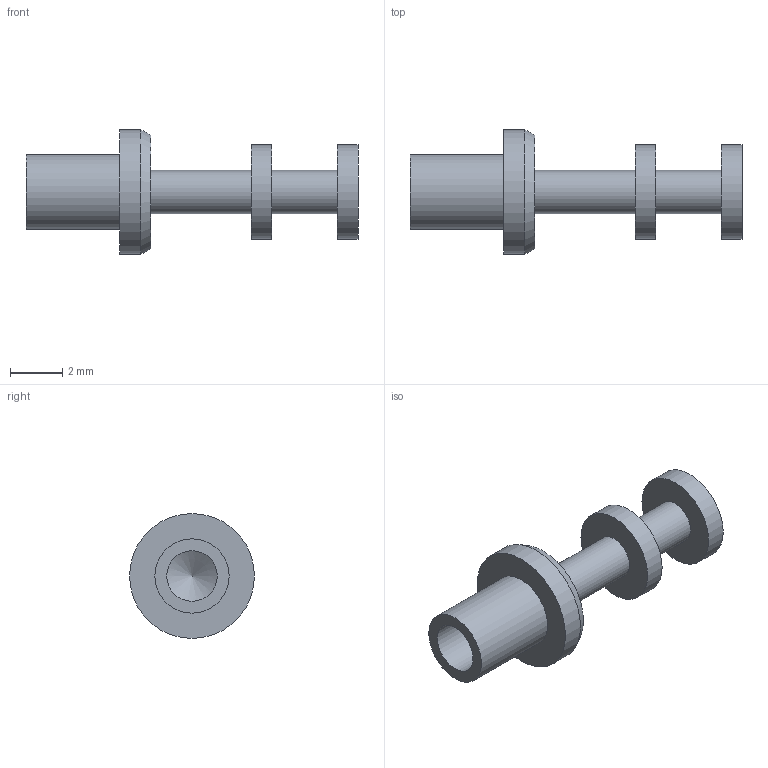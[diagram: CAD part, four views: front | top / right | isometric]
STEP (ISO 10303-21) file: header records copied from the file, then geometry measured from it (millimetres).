
FILE_DESCRIPTION(/* description */ (''),/* implementation_level */ '2;1');
FILE_NAME(/* name */ 'Z:\STEP folder\160-1724-03.ipt.stp',/* time_stamp */ '2016-12-07T10:48:46+00:00',/* author */ ('Paul Karlsons'),/* organization */ (''),/* preprocessor_version */ 'ST-DEVELOPER v15.2',/* originating_system */ 'Autodesk Inventor 2014',/* authorisation */ '');
FILE_SCHEMA (('AUTOMOTIVE_DESIGN { 1 0 10303 214 3 1 1 }'));
Length unit declared in the file: millimetre
Products named in the file (1): 160-1724-03
Bounding box: 12.7 x 4.78 x 4.78 mm (x, y, z)
Volume: 65.4 mm3; surface area: 181.8 mm2
Topology: 1 solids, 1 shells, 16 faces, 25 edges, 16 vertices
Faces by surface type: cylinder 7, plane 7, cone 2
Full cylindrical faces by diameter (mm): 1.651 x2, 1.93 x1, 2.845 x1, 3.607 x2, 4.775 x1
Entity records: 335 total; most frequent: DIRECTION 64, CARTESIAN_POINT 47, AXIS2_PLACEMENT_3D 32, EDGE_LOOP 30, ORIENTED_EDGE 30, FACE_BOUND 17, ADVANCED_FACE 16, CIRCLE 15
